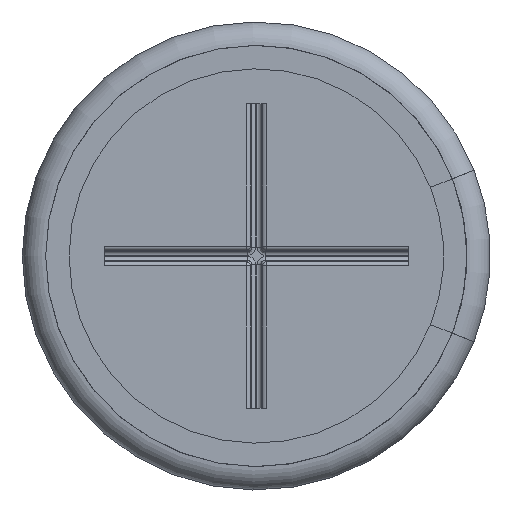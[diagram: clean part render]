
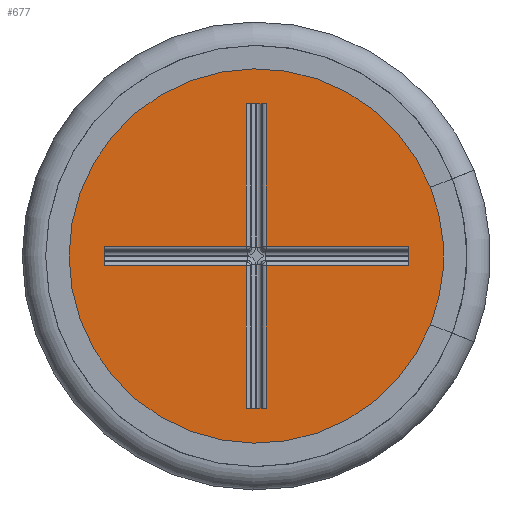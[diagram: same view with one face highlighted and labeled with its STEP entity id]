
A CAD part, front view. The second image highlights one B-rep face of the part: STEP entity #677.
In plain terms, the highlighted planar face has unit normal (0, -1, 0).
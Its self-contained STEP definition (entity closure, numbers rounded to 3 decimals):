
#115=FACE_BOUND('',#940,.T.);
#116=FACE_BOUND('',#941,.T.);
#633=PLANE('',#2470);
#677=ADVANCED_FACE('',(#115,#116),#633,.T.);
#940=EDGE_LOOP('',(#1374));
#941=EDGE_LOOP('',(#1375,#1376,#1377,#1378,#1379,#1380,#1381,#1382,#1383,
#1384,#1385,#1386));
#1066=LINE('',#3475,#1170);
#1067=LINE('',#3478,#1171);
#1068=LINE('',#3480,#1172);
#1069=LINE('',#3482,#1173);
#1070=LINE('',#3484,#1174);
#1071=LINE('',#3486,#1175);
#1072=LINE('',#3488,#1176);
#1073=LINE('',#3490,#1177);
#1074=LINE('',#3492,#1178);
#1075=LINE('',#3494,#1179);
#1076=LINE('',#3496,#1180);
#1077=LINE('',#3498,#1181);
#1170=VECTOR('',#2834,1.);
#1171=VECTOR('',#2835,1.);
#1172=VECTOR('',#2836,1.);
#1173=VECTOR('',#2837,1.);
#1174=VECTOR('',#2838,1.);
#1175=VECTOR('',#2839,1.);
#1176=VECTOR('',#2840,1.);
#1177=VECTOR('',#2841,1.);
#1178=VECTOR('',#2842,1.);
#1179=VECTOR('',#2843,1.);
#1180=VECTOR('',#2844,1.);
#1181=VECTOR('',#2845,1.);
#1374=ORIENTED_EDGE('',*,*,#2034,.T.);
#1375=ORIENTED_EDGE('',*,*,#2035,.T.);
#1376=ORIENTED_EDGE('',*,*,#2036,.T.);
#1377=ORIENTED_EDGE('',*,*,#2037,.T.);
#1378=ORIENTED_EDGE('',*,*,#2038,.T.);
#1379=ORIENTED_EDGE('',*,*,#2039,.T.);
#1380=ORIENTED_EDGE('',*,*,#2040,.T.);
#1381=ORIENTED_EDGE('',*,*,#2041,.T.);
#1382=ORIENTED_EDGE('',*,*,#2042,.F.);
#1383=ORIENTED_EDGE('',*,*,#2043,.T.);
#1384=ORIENTED_EDGE('',*,*,#2044,.T.);
#1385=ORIENTED_EDGE('',*,*,#2045,.F.);
#1386=ORIENTED_EDGE('',*,*,#2046,.T.);
#1838=VERTEX_POINT('',#3474);
#1839=VERTEX_POINT('',#3476);
#1840=VERTEX_POINT('',#3477);
#1841=VERTEX_POINT('',#3479);
#1842=VERTEX_POINT('',#3481);
#1843=VERTEX_POINT('',#3483);
#1844=VERTEX_POINT('',#3485);
#1845=VERTEX_POINT('',#3487);
#1846=VERTEX_POINT('',#3489);
#1847=VERTEX_POINT('',#3491);
#1848=VERTEX_POINT('',#3493);
#1849=VERTEX_POINT('',#3495);
#1850=VERTEX_POINT('',#3497);
#2034=EDGE_CURVE('',#1838,#1838,#2286,.T.);
#2035=EDGE_CURVE('',#1839,#1840,#1066,.T.);
#2036=EDGE_CURVE('',#1840,#1841,#1067,.T.);
#2037=EDGE_CURVE('',#1841,#1842,#1068,.T.);
#2038=EDGE_CURVE('',#1842,#1843,#1069,.T.);
#2039=EDGE_CURVE('',#1843,#1844,#1070,.T.);
#2040=EDGE_CURVE('',#1844,#1845,#1071,.T.);
#2041=EDGE_CURVE('',#1845,#1846,#1072,.T.);
#2042=EDGE_CURVE('',#1847,#1846,#1073,.T.);
#2043=EDGE_CURVE('',#1847,#1848,#1074,.T.);
#2044=EDGE_CURVE('',#1848,#1849,#1075,.T.);
#2045=EDGE_CURVE('',#1850,#1849,#1076,.T.);
#2046=EDGE_CURVE('',#1850,#1839,#1077,.T.);
#2286=CIRCLE('',#2469,4.5);
#2469=AXIS2_PLACEMENT_3D('',#3473,#2832,#2833);
#2470=AXIS2_PLACEMENT_3D('',#3499,#2846,#2847);
#2832=DIRECTION('',(0.,-1.,0.));
#2833=DIRECTION('',(0.,0.,-1.));
#2834=DIRECTION('',(0.,0.,-1.));
#2835=DIRECTION('',(-1.,0.,0.));
#2836=DIRECTION('',(0.,0.,1.));
#2837=DIRECTION('',(-1.,0.,0.));
#2838=DIRECTION('',(0.,0.,1.));
#2839=DIRECTION('',(1.,0.,0.));
#2840=DIRECTION('',(0.,0.,1.));
#2841=DIRECTION('',(-1.,0.,0.));
#2842=DIRECTION('',(0.,0.,-1.));
#2843=DIRECTION('',(1.,0.,0.));
#2844=DIRECTION('',(0.,0.,1.));
#2845=DIRECTION('',(-1.,0.,0.));
#2846=DIRECTION('',(0.,-1.,0.));
#2847=DIRECTION('',(0.,0.,-1.));
#3473=CARTESIAN_POINT('',(0.,0.1,0.));
#3474=CARTESIAN_POINT('',(0.,0.1,-4.5));
#3475=CARTESIAN_POINT('',(0.212,0.1,-3.25));
#3476=CARTESIAN_POINT('',(0.212,0.1,-0.212));
#3477=CARTESIAN_POINT('',(0.212,0.1,-3.25));
#3478=CARTESIAN_POINT('',(0.15,0.1,-3.25));
#3479=CARTESIAN_POINT('',(-0.212,0.1,-3.25));
#3480=CARTESIAN_POINT('',(-0.212,0.1,-0.15));
#3481=CARTESIAN_POINT('',(-0.212,0.1,-0.212));
#3482=CARTESIAN_POINT('',(-3.25,0.1,-0.212));
#3483=CARTESIAN_POINT('',(-3.25,0.1,-0.212));
#3484=CARTESIAN_POINT('',(-3.25,0.1,-0.15));
#3485=CARTESIAN_POINT('',(-3.25,0.1,0.212));
#3486=CARTESIAN_POINT('',(-0.15,0.1,0.212));
#3487=CARTESIAN_POINT('',(-0.212,0.1,0.212));
#3488=CARTESIAN_POINT('',(-0.212,0.1,3.25));
#3489=CARTESIAN_POINT('',(-0.212,0.1,3.25));
#3490=CARTESIAN_POINT('',(0.15,0.1,3.25));
#3491=CARTESIAN_POINT('',(0.212,0.1,3.25));
#3492=CARTESIAN_POINT('',(0.212,0.1,0.15));
#3493=CARTESIAN_POINT('',(0.212,0.1,0.212));
#3494=CARTESIAN_POINT('',(3.25,0.1,0.212));
#3495=CARTESIAN_POINT('',(3.25,0.1,0.212));
#3496=CARTESIAN_POINT('',(3.25,0.1,-0.15));
#3497=CARTESIAN_POINT('',(3.25,0.1,-0.212));
#3498=CARTESIAN_POINT('',(0.15,0.1,-0.212));
#3499=CARTESIAN_POINT('',(0.,0.1,0.));
